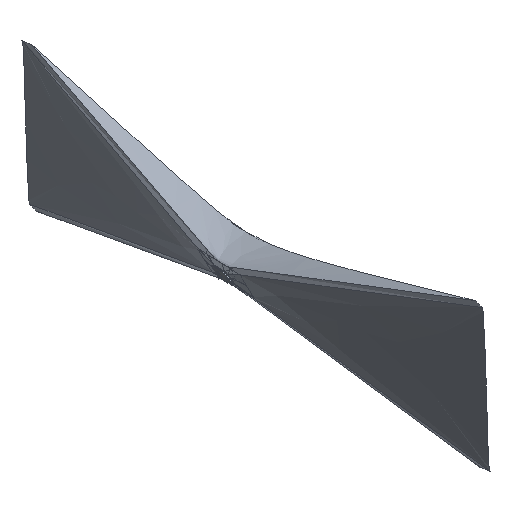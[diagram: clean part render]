
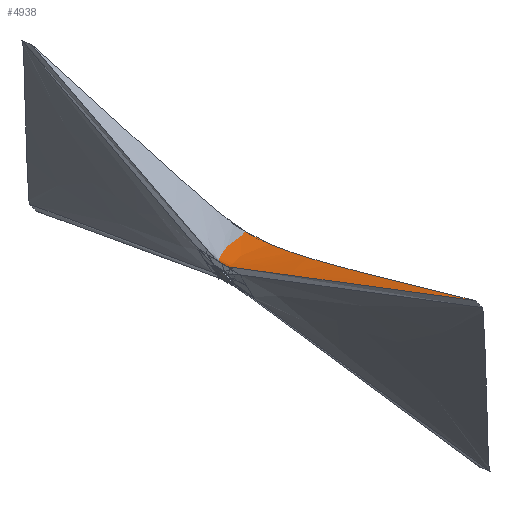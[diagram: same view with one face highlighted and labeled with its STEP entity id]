
A CAD part, isometric view. The second image highlights one B-rep face of the part: STEP entity #4938.
In plain terms, the highlighted free-form (B-spline) face has degree [5, 1] with [12, 2] control points.
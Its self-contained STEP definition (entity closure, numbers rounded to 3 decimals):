
#4397=CARTESIAN_POINT('Vertex',(25.,123.143,46.4)) ;
#4401=CARTESIAN_POINT('Control Point',(25.,123.143,46.4)) ;
#4402=CARTESIAN_POINT('Control Point',(25.,121.53,46.33)) ;
#4403=CARTESIAN_POINT('Control Point',(25.,119.916,46.259)) ;
#4404=CARTESIAN_POINT('Control Point',(25.,118.158,46.182)) ;
#4405=CARTESIAN_POINT('Control Point',(25.,116.546,46.112)) ;
#4406=CARTESIAN_POINT('Control Point',(25.,114.935,46.042)) ;
#4407=CARTESIAN_POINT('Vertex',(25.,114.935,46.042)) ;
#4821=CARTESIAN_POINT('Control Point',(25.,123.143,46.4)) ;
#4822=CARTESIAN_POINT('Control Point',(2077.947,2210.095,923.896)) ;
#4823=CARTESIAN_POINT('Control Point',(25.,114.418,46.019)) ;
#4824=CARTESIAN_POINT('Control Point',(2412.239,1898.362,923.896)) ;
#4825=CARTESIAN_POINT('Control Point',(25.,105.692,45.638)) ;
#4826=CARTESIAN_POINT('Control Point',(2687.591,1523.425,923.896)) ;
#4827=CARTESIAN_POINT('Control Point',(25.,96.97,45.257)) ;
#4828=CARTESIAN_POINT('Control Point',(2887.94,1100.266,923.896)) ;
#4829=CARTESIAN_POINT('Control Point',(25.,79.586,44.498)) ;
#4830=CARTESIAN_POINT('Control Point',(3118.087,202.465,923.896)) ;
#4831=CARTESIAN_POINT('Control Point',(25.,62.202,43.739)) ;
#4832=CARTESIAN_POINT('Control Point',(3005.876,-717.304,923.896)) ;
#4833=CARTESIAN_POINT('Control Point',(25.,53.546,43.361)) ;
#4834=CARTESIAN_POINT('Control Point',(2863.675,-1159.46,923.896)) ;
#4835=CARTESIAN_POINT('Control Point',(25.,36.294,42.608)) ;
#4836=CARTESIAN_POINT('Control Point',(2422.078,-1966.025,923.896)) ;
#4837=CARTESIAN_POINT('Control Point',(25.,19.043,41.855)) ;
#4838=CARTESIAN_POINT('Control Point',(1719.134,-2558.466,923.896)) ;
#4839=CARTESIAN_POINT('Control Point',(25.,10.453,41.48)) ;
#4840=CARTESIAN_POINT('Control Point',(1317.461,-2784.207,923.896)) ;
#4841=CARTESIAN_POINT('Control Point',(25.,1.86,41.105)) ;
#4842=CARTESIAN_POINT('Control Point',(883.349,-2929.864,923.896)) ;
#4843=CARTESIAN_POINT('Control Point',(25.,-6.733,40.729)) ;
#4844=CARTESIAN_POINT('Control Point',(437.57,-2992.514,923.896)) ;
#4846=CARTESIAN_POINT('Control Point',(217.,318.323,128.467)) ;
#4847=CARTESIAN_POINT('Control Point',(217.,301.203,125.058)) ;
#4848=CARTESIAN_POINT('Control Point',(217.,285.46,122.107)) ;
#4849=CARTESIAN_POINT('Control Point',(217.,270.792,119.519)) ;
#4850=CARTESIAN_POINT('Control Point',(217.,244.952,115.239)) ;
#4851=CARTESIAN_POINT('Control Point',(217.,221.617,111.862)) ;
#4852=CARTESIAN_POINT('Control Point',(217.,211.191,110.455)) ;
#4853=CARTESIAN_POINT('Control Point',(217.,190.183,107.822)) ;
#4854=CARTESIAN_POINT('Control Point',(217.,170.524,105.761)) ;
#4855=CARTESIAN_POINT('Control Point',(217.,160.569,104.823)) ;
#4856=CARTESIAN_POINT('Control Point',(217.,135.549,102.725)) ;
#4857=CARTESIAN_POINT('Control Point',(217.,111.734,101.379)) ;
#4858=CARTESIAN_POINT('Control Point',(217.,97.44,100.803)) ;
#4859=CARTESIAN_POINT('Control Point',(217.,72.37,100.195)) ;
#4860=CARTESIAN_POINT('Control Point',(217.,47.201,100.317)) ;
#4861=CARTESIAN_POINT('Control Point',(217.,36.19,100.508)) ;
#4862=CARTESIAN_POINT('Control Point',(217.,15.397,101.131)) ;
#4863=CARTESIAN_POINT('Control Point',(217.,-6.206,102.297)) ;
#4864=CARTESIAN_POINT('Control Point',(217.,-16.434,102.96)) ;
#4865=CARTESIAN_POINT('Control Point',(217.,-37.073,104.531)) ;
#4866=CARTESIAN_POINT('Control Point',(217.,-59.124,106.7)) ;
#4867=CARTESIAN_POINT('Control Point',(217.,-70.349,107.924)) ;
#4868=CARTESIAN_POINT('Control Point',(217.,-105.939,112.196)) ;
#4869=CARTESIAN_POINT('Control Point',(217.,-147.272,118.472)) ;
#4870=CARTESIAN_POINT('Control Point',(217.,-178.599,123.868)) ;
#4871=CARTESIAN_POINT('Control Point',(217.,-229.092,133.618)) ;
#4872=CARTESIAN_POINT('Control Point',(217.,-296.639,148.72)) ;
#4873=CARTESIAN_POINT('Control Point',(217.,-316.571,153.308)) ;
#4874=CARTESIAN_POINT('Control Point',(217.,-357.144,162.915)) ;
#4875=CARTESIAN_POINT('Control Point',(217.,-404.148,174.566)) ;
#4876=CARTESIAN_POINT('Control Point',(217.,-427.629,180.494)) ;
#4877=CARTESIAN_POINT('Control Point',(217.,-475.722,192.845)) ;
#4878=CARTESIAN_POINT('Control Point',(217.,-529.126,206.943)) ;
#4879=CARTESIAN_POINT('Control Point',(217.,-555.89,214.089)) ;
#4880=CARTESIAN_POINT('Control Point',(217.,-615.163,230.071)) ;
#4881=CARTESIAN_POINT('Control Point',(217.,-678.305,247.398)) ;
#4882=CARTESIAN_POINT('Control Point',(217.,-712.737,256.919)) ;
#4883=CARTESIAN_POINT('Control Point',(217.,-805.995,282.873)) ;
#4884=CARTESIAN_POINT('Control Point',(217.,-902.894,310.215)) ;
#4885=CARTESIAN_POINT('Control Point',(217.,-964.233,327.63)) ;
#4886=CARTESIAN_POINT('Control Point',(217.,-1086.845,362.602)) ;
#4887=CARTESIAN_POINT('Control Point',(217.,-1210.756,398.199)) ;
#4888=CARTESIAN_POINT('Control Point',(217.,-1272.464,415.973)) ;
#4889=CARTESIAN_POINT('Control Point',(217.,-1334.312,433.826)) ;
#4890=CARTESIAN_POINT('Control Point',(217.,-1396.241,451.733)) ;
#4891=CARTESIAN_POINT('Vertex',(217.,318.323,128.467)) ;
#4893=CARTESIAN_POINT('Vertex',(217.,-1396.241,451.733)) ;
#4897=CARTESIAN_POINT('Control Point',(25.,-6.733,40.729)) ;
#4898=CARTESIAN_POINT('Control Point',(217.,-1396.241,451.733)) ;
#4899=CARTESIAN_POINT('Vertex',(25.,-6.733,40.729)) ;
#4903=CARTESIAN_POINT('Control Point',(25.,-4.695,40.818)) ;
#4904=CARTESIAN_POINT('Control Point',(25.,-5.103,40.801)) ;
#4905=CARTESIAN_POINT('Control Point',(25.,-5.51,40.783)) ;
#4906=CARTESIAN_POINT('Control Point',(25.,-5.918,40.765)) ;
#4907=CARTESIAN_POINT('Control Point',(25.,-6.326,40.747)) ;
#4908=CARTESIAN_POINT('Control Point',(25.,-6.733,40.729)) ;
#4909=CARTESIAN_POINT('Vertex',(25.,-4.695,40.818)) ;
#4913=CARTESIAN_POINT('Control Point',(25.,114.935,46.042)) ;
#4914=CARTESIAN_POINT('Control Point',(25.,107.852,45.732)) ;
#4915=CARTESIAN_POINT('Control Point',(25.,100.769,45.423)) ;
#4916=CARTESIAN_POINT('Control Point',(25.,93.687,45.114)) ;
#4917=CARTESIAN_POINT('Control Point',(25.,77.945,44.427)) ;
#4918=CARTESIAN_POINT('Control Point',(25.,62.202,43.739)) ;
#4919=CARTESIAN_POINT('Control Point',(25.,53.546,43.361)) ;
#4920=CARTESIAN_POINT('Control Point',(25.,36.702,42.626)) ;
#4921=CARTESIAN_POINT('Control Point',(25.,19.858,41.89)) ;
#4922=CARTESIAN_POINT('Control Point',(25.,11.675,41.533)) ;
#4923=CARTESIAN_POINT('Control Point',(25.,3.49,41.176)) ;
#4924=CARTESIAN_POINT('Control Point',(25.,-4.695,40.818)) ;
#4927=CARTESIAN_POINT('Control Point',(25.,123.143,46.4)) ;
#4928=CARTESIAN_POINT('Control Point',(217.,318.323,128.467)) ;
#4931=ORIENTED_EDGE('',*,*,#4895,.T.) ;
#4932=ORIENTED_EDGE('',*,*,#4901,.F.) ;
#4933=ORIENTED_EDGE('',*,*,#4911,.F.) ;
#4934=ORIENTED_EDGE('',*,*,#4925,.F.) ;
#4935=ORIENTED_EDGE('',*,*,#4409,.T.) ;
#4936=ORIENTED_EDGE('',*,*,#4929,.T.) ;
#4938=ADVANCED_FACE('Geometric Visibillity Cone / LH+RH / Front+Rear / POSITION LAMP',(#4937),#4820,.F.) ;
#4400=B_SPLINE_CURVE_WITH_KNOTS('',5,(#4401,#4402,#4403,#4404,#4405,#4406),.UNSPECIFIED.,.F.,.U.,(6,6),(0.,6.153),.UNSPECIFIED.) ;
#4845=B_SPLINE_CURVE_WITH_KNOTS('',5,(#4846,#4847,#4848,#4849,#4850,#4851,#4852,#4853,#4854,#4855,#4856,#4857,#4858,#4859,#4860,#4861,#4862,#4863,#4864,#4865,#4866,#4867,#4868,#4869,#4870,#4871,#4872,#4873,#4874,#4875,#4876,#4877,#4878,#4879,#4880,#4881,#4882,#4883,#4884,#4885,#4886,#4887,#4888,#4889,#4890),.UNSPECIFIED.,.F.,.U.,(6,3,3,3,3,3,3,3,3,3,3,3,3,3,6),(0.,415.479,777.837,1172.222,1792.478,2268.411,2678.812,3073.905,3877.989,4180.291,4445.911,4690.942,4968.702,5429.478,5884.389),.UNSPECIFIED.) ;
#4896=B_SPLINE_CURVE_WITH_KNOTS('',1,(#4897,#4898),.UNSPECIFIED.,.F.,.U.,(2,2),(0.,1443.111),.UNSPECIFIED.) ;
#4902=B_SPLINE_CURVE_WITH_KNOTS('',5,(#4903,#4904,#4905,#4906,#4907,#4908),.UNSPECIFIED.,.F.,.U.,(6,6),(4736.698,4812.228),.UNSPECIFIED.) ;
#4912=B_SPLINE_CURVE_WITH_KNOTS('',5,(#4913,#4914,#4915,#4916,#4917,#4918,#4919,#4920,#4921,#4922,#4923,#4924),.UNSPECIFIED.,.F.,.U.,(6,3,3,6),(304.089,1616.34,3220.385,4736.698),.UNSPECIFIED.) ;
#4926=B_SPLINE_CURVE_WITH_KNOTS('',1,(#4927,#4928),.UNSPECIFIED.,.F.,.U.,(2,2),(0.,290.015),.UNSPECIFIED.) ;
#4820=B_SPLINE_SURFACE_WITH_KNOTS('',5,1,((#4821,#4822),(#4823,#4824),(#4825,#4826),(#4827,#4828),(#4829,#4830),(#4831,#4832),(#4833,#4834),(#4835,#4836),(#4837,#4838),(#4839,#4840),(#4841,#4842),(#4843,#4844)),.UNSPECIFIED.,.F.,.F.,.U.,(6,3,3,6),(2,2),(0.,1616.34,3220.385,4812.228),(0.,3100.962),.UNSPECIFIED.) ;
#4409=EDGE_CURVE('',#4408,#4398,#4400,.F.) ;
#4895=EDGE_CURVE('',#4892,#4894,#4845,.T.) ;
#4901=EDGE_CURVE('',#4900,#4894,#4896,.T.) ;
#4911=EDGE_CURVE('',#4910,#4900,#4902,.T.) ;
#4925=EDGE_CURVE('',#4408,#4910,#4912,.T.) ;
#4929=EDGE_CURVE('',#4398,#4892,#4926,.T.) ;
#4930=EDGE_LOOP('',(#4931,#4932,#4933,#4934,#4935,#4936)) ;
#4937=FACE_OUTER_BOUND('',#4930,.T.) ;
#4398=VERTEX_POINT('',#4397) ;
#4408=VERTEX_POINT('',#4407) ;
#4892=VERTEX_POINT('',#4891) ;
#4894=VERTEX_POINT('',#4893) ;
#4900=VERTEX_POINT('',#4899) ;
#4910=VERTEX_POINT('',#4909) ;
